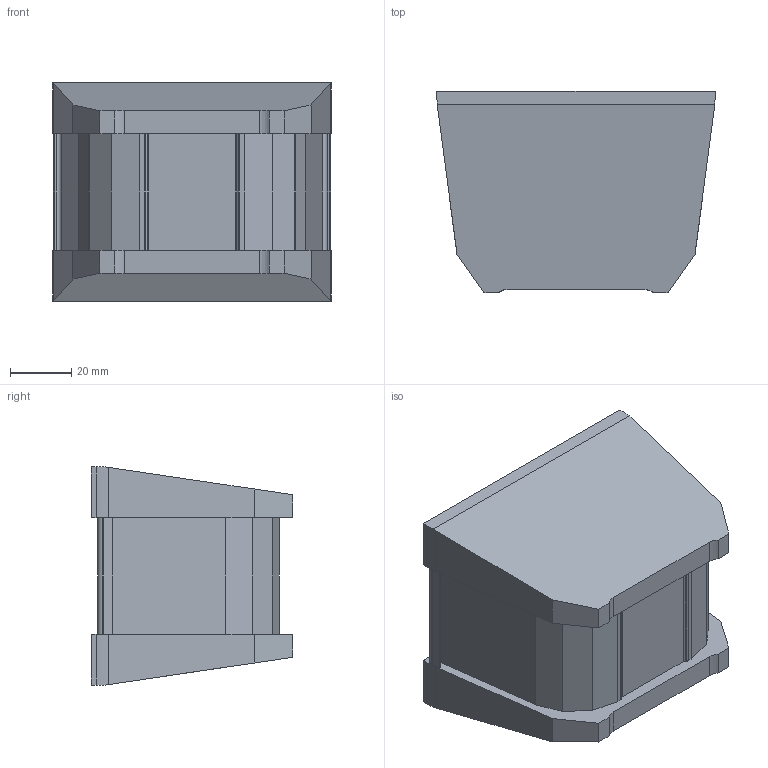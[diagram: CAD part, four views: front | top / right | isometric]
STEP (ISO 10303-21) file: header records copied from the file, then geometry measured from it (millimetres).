
FILE_DESCRIPTION (( 'STEP AP214' ), '1' );
FILE_NAME ('Besteckschale NL 70 L71.step', '2010-09-21T13:13:31', ( 'grass' ), ( '' ), 'SwSTEP 2.0', 'SolidWorks 2010', '' );
FILE_SCHEMA (( 'AUTOMOTIVE_DESIGN' ));
Length unit declared in the file: millimetre
Products named in the file (1): Besteckschale NL 70 L71
Bounding box: 90.5 x 65.5 x 71 mm (x, y, z)
Volume: 51451.8 mm3; surface area: 43588.7 mm2
Topology: 1 solids, 1 shells, 112 faces, 324 edges, 216 vertices
Faces by surface type: plane 80, cylinder 32
Entity records: 3702 total; most frequent: CARTESIAN_POINT 677, ORIENTED_EDGE 648, DIRECTION 602, EDGE_CURVE 324, LINE 256, VECTOR 256, VERTEX_POINT 216, AXIS2_PLACEMENT_3D 173
